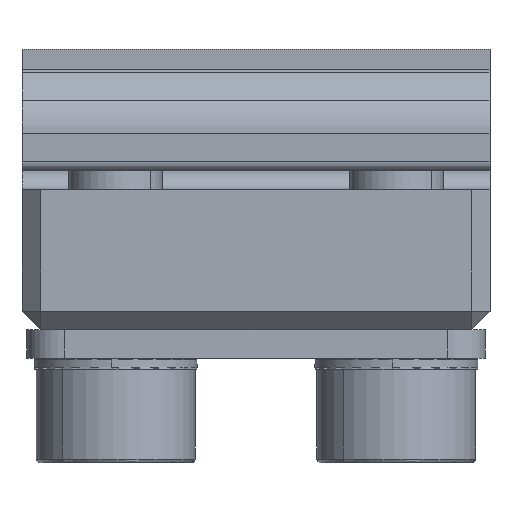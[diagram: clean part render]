
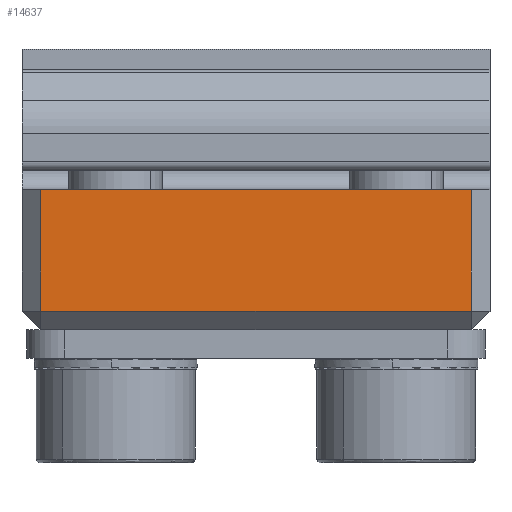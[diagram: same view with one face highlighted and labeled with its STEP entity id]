
A CAD part, front view. The second image highlights one B-rep face of the part: STEP entity #14637.
In plain terms, the highlighted planar face has unit normal (0, -1, 0).
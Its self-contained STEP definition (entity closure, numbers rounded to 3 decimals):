
#165 = VECTOR ( 'NONE', #15987, 1000. ) ;
#588 = DIRECTION ( 'NONE',  ( -1., 0., 0. ) ) ;
#755 = DIRECTION ( 'NONE',  ( 0., 0., -1. ) ) ;
#893 = DIRECTION ( 'NONE',  ( 0., -1., 0. ) ) ;
#991 = VERTEX_POINT ( 'NONE', #9934 ) ;
#3881 = DIRECTION ( 'NONE',  ( -1., 0., 0. ) ) ;
#4387 = AXIS2_PLACEMENT_3D ( 'NONE', #20173, #893, #14707 ) ;
#5575 = ORIENTED_EDGE ( 'NONE', *, *, #23153, .T. ) ;
#7243 = VERTEX_POINT ( 'NONE', #18912 ) ;
#7381 = VERTEX_POINT ( 'NONE', #18754 ) ;
#7629 = EDGE_CURVE ( 'NONE', #991, #7243, #15865, .T. ) ;
#8082 = CARTESIAN_POINT ( 'NONE',  ( -2.823, 11.788, -3.25 ) ) ;
#8251 = VECTOR ( 'NONE', #3881, 1000. ) ;
#9164 = EDGE_CURVE ( 'NONE', #11928, #7381, #10557, .T. ) ;
#9189 = ORIENTED_EDGE ( 'NONE', *, *, #17504, .F. ) ;
#9934 = CARTESIAN_POINT ( 'NONE',  ( -2.823, 11.788, -6.5 ) ) ;
#10052 = LINE ( 'NONE', #16245, #8251 ) ;
#10557 = LINE ( 'NONE', #16251, #17947 ) ;
#11928 = VERTEX_POINT ( 'NONE', #20019 ) ;
#13279 = ORIENTED_EDGE ( 'NONE', *, *, #9164, .T. ) ;
#14637 = ADVANCED_FACE ( 'NONE', ( #24339 ), #18738, .T. ) ;
#14707 = DIRECTION ( 'NONE',  ( 0., 0., -1. ) ) ;
#15865 = LINE ( 'NONE', #8082, #165 ) ;
#15949 = EDGE_LOOP ( 'NONE', ( #9189, #15951, #5575, #13279 ) ) ;
#15951 = ORIENTED_EDGE ( 'NONE', *, *, #7629, .T. ) ;
#15987 = DIRECTION ( 'NONE',  ( 0., 0., 1. ) ) ;
#16245 = CARTESIAN_POINT ( 'NONE',  ( -14.323, 11.788, -6.5 ) ) ;
#16251 = CARTESIAN_POINT ( 'NONE',  ( -25.823, 11.788, -3.25 ) ) ;
#17504 = EDGE_CURVE ( 'NONE', #991, #7381, #10052, .T. ) ;
#17947 = VECTOR ( 'NONE', #755, 1000. ) ;
#18738 = PLANE ( 'NONE',  #4387 ) ;
#18754 = CARTESIAN_POINT ( 'NONE',  ( -25.823, 11.788, -6.5 ) ) ;
#18912 = CARTESIAN_POINT ( 'NONE',  ( -2.823, 11.788, 0. ) ) ;
#19465 = VECTOR ( 'NONE', #588, 1000. ) ;
#20019 = CARTESIAN_POINT ( 'NONE',  ( -25.823, 11.788, 0. ) ) ;
#20173 = CARTESIAN_POINT ( 'NONE',  ( -25.823, 11.788, 0. ) ) ;
#22344 = CARTESIAN_POINT ( 'NONE',  ( -14.323, 11.788, 0. ) ) ;
#23153 = EDGE_CURVE ( 'NONE', #7243, #11928, #24422, .T. ) ;
#24339 = FACE_OUTER_BOUND ( 'NONE', #15949, .T. ) ;
#24422 = LINE ( 'NONE', #22344, #19465 ) ;
